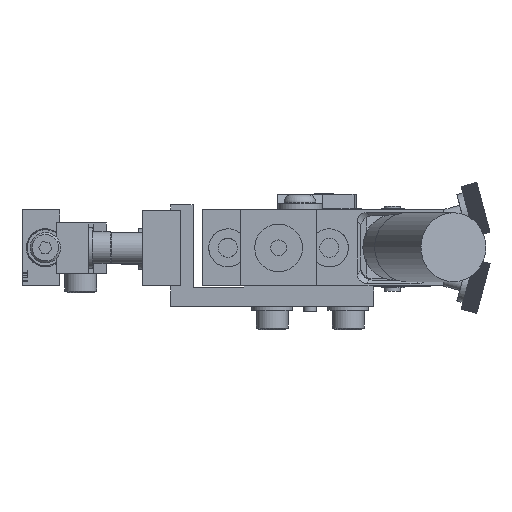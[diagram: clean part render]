
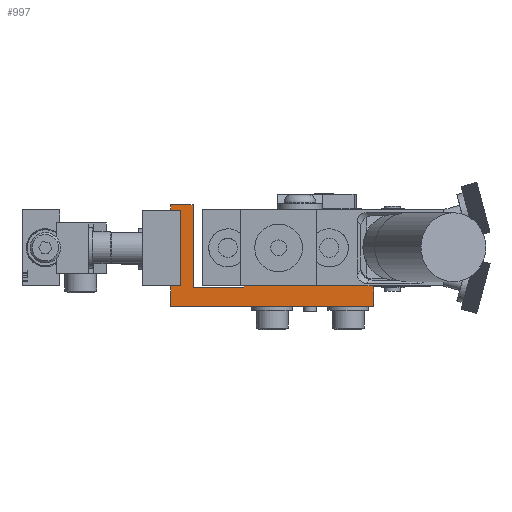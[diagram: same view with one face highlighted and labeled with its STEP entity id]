
A CAD part, left-side view. The second image highlights one B-rep face of the part: STEP entity #997.
In plain terms, the highlighted planar face has unit normal (-1, 0, 0).
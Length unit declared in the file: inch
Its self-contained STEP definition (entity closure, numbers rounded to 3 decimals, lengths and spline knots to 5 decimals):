
#511=CARTESIAN_POINT('',(-0.4995,1.8755,-0.2));
#512=VERTEX_POINT('',#511);
#519=CARTESIAN_POINT('',(-0.4995,1.8755,0.));
#520=VERTEX_POINT('',#519);
#521=CARTESIAN_POINT('',(-0.4995,1.8755,0.));
#522=DIRECTION('',(0.0,0.0,-1.0));
#523=VECTOR('',#522,0.2);
#524=LINE('',#521,#523);
#525=EDGE_CURVE('',#520,#512,#524,.T.);
#543=CARTESIAN_POINT('',(-0.4995,1.8755,0.745));
#544=VERTEX_POINT('',#543);
#551=CARTESIAN_POINT('',(-0.4995,1.8755,0.8));
#552=VERTEX_POINT('',#551);
#553=CARTESIAN_POINT('',(-0.4995,1.8755,0.8));
#554=DIRECTION('',(0.0,0.0,-1.0));
#555=VECTOR('',#554,0.055);
#556=LINE('',#553,#555);
#557=EDGE_CURVE('',#552,#544,#556,.T.);
#652=CARTESIAN_POINT('',(-0.4995,-0.1245,-0.2));
#653=VERTEX_POINT('',#652);
#660=CARTESIAN_POINT('',(-0.4995,1.8755,-0.2));
#661=DIRECTION('',(0.0,-1.0,0.0));
#662=VECTOR('',#661,2.);
#663=LINE('',#660,#662);
#664=EDGE_CURVE('',#512,#653,#663,.T.);
#772=CARTESIAN_POINT('',(-0.4995,1.6555,-0.015));
#773=VERTEX_POINT('',#772);
#797=CARTESIAN_POINT('',(-0.4995,1.6555,0.8));
#798=VERTEX_POINT('',#797);
#805=CARTESIAN_POINT('',(-0.4995,1.6555,-0.015));
#806=DIRECTION('',(0.0,0.0,1.0));
#807=VECTOR('',#806,0.815);
#808=LINE('',#805,#807);
#809=EDGE_CURVE('',#773,#798,#808,.T.);
#847=CARTESIAN_POINT('',(-0.4995,1.6555,0.8));
#848=DIRECTION('',(0.0,1.0,0.0));
#849=VECTOR('',#848,0.22);
#850=LINE('',#847,#849);
#851=EDGE_CURVE('',#798,#552,#850,.T.);
#871=CARTESIAN_POINT('',(-0.4995,-0.1245,0.));
#872=VERTEX_POINT('',#871);
#879=CARTESIAN_POINT('',(-0.4995,-0.1245,-0.2));
#880=DIRECTION('',(0.0,0.0,1.0));
#881=VECTOR('',#880,0.2);
#882=LINE('',#879,#881);
#883=EDGE_CURVE('',#653,#872,#882,.T.);
#904=CARTESIAN_POINT('',(-0.4995,1.1555,-0.015));
#905=VERTEX_POINT('',#904);
#912=CARTESIAN_POINT('',(-0.4995,1.1555,0.));
#913=VERTEX_POINT('',#912);
#914=CARTESIAN_POINT('',(-0.4995,1.1555,0.));
#915=DIRECTION('',(0.0,0.0,-1.0));
#916=VECTOR('',#915,0.015);
#917=LINE('',#914,#916);
#918=EDGE_CURVE('',#913,#905,#917,.T.);
#941=CARTESIAN_POINT('',(-0.4995,1.1555,-0.015));
#942=DIRECTION('',(0.0,1.0,0.0));
#943=VECTOR('',#942,0.5);
#944=LINE('',#941,#943);
#945=EDGE_CURVE('',#905,#773,#944,.T.);
#970=CARTESIAN_POINT('',(-0.4995,0.76361,-0.10189));
#971=DIRECTION('',(1.0,0.0,0.0));
#972=DIRECTION('',(0.0,-1.0,0.0));
#973=AXIS2_PLACEMENT_3D('',#970,#971,#972);
#974=PLANE('',#973);
#975=ORIENTED_EDGE('',*,*,#664,.T.);
#976=ORIENTED_EDGE('',*,*,#883,.T.);
#977=CARTESIAN_POINT('',(-0.4995,1.1555,0.));
#978=DIRECTION('',(0.0,-1.0,0.0));
#979=VECTOR('',#978,1.28);
#980=LINE('',#977,#979);
#981=EDGE_CURVE('',#913,#872,#980,.T.);
#982=ORIENTED_EDGE('',*,*,#981,.F.);
#983=ORIENTED_EDGE('',*,*,#918,.T.);
#984=ORIENTED_EDGE('',*,*,#945,.T.);
#985=ORIENTED_EDGE('',*,*,#809,.T.);
#986=ORIENTED_EDGE('',*,*,#851,.T.);
#987=ORIENTED_EDGE('',*,*,#557,.T.);
#988=CARTESIAN_POINT('',(-0.4995,1.8755,0.));
#989=DIRECTION('',(0.0,0.0,1.0));
#990=VECTOR('',#989,0.745);
#991=LINE('',#988,#990);
#992=EDGE_CURVE('',#520,#544,#991,.T.);
#993=ORIENTED_EDGE('',*,*,#992,.F.);
#994=ORIENTED_EDGE('',*,*,#525,.T.);
#995=EDGE_LOOP('',(#975,#976,#982,#983,#984,#985,#986,#987,#993,#994));
#996=FACE_OUTER_BOUND('',#995,.T.);
#997=ADVANCED_FACE('',(#996),#974,.F.);
